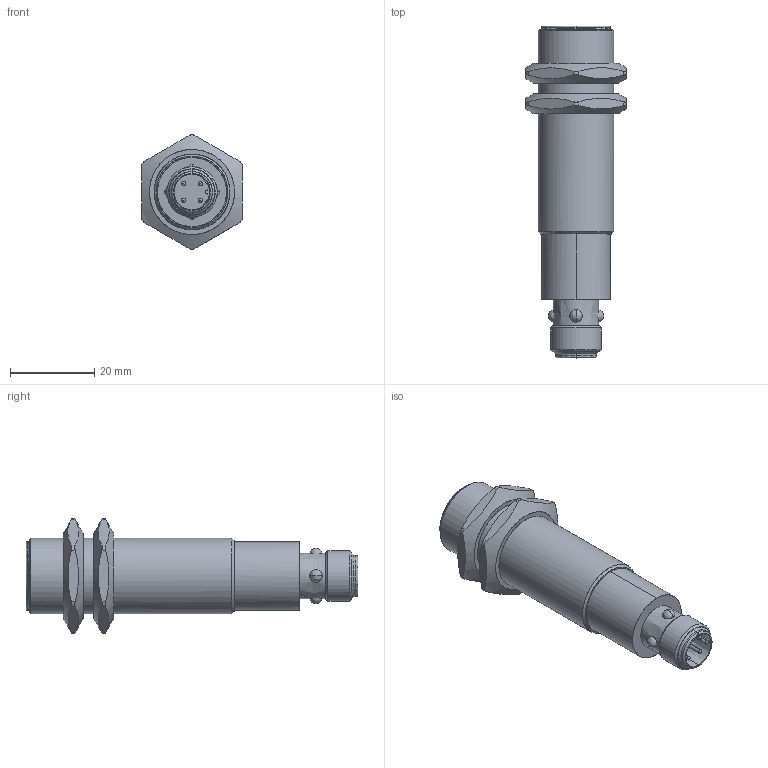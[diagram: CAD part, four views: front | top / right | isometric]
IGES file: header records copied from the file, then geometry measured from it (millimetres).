
Global section: file name: U:\allgemeine_exporte\3DCAD_IS_118MM_4NO_8E0_M12\19-102969_00.0_1-3DCAD_IS_118MM_4NO_8E0_M12.igs; native system: NX V11.0; preprocessor: SIEMENS PLM Software NX 11.0; date: 20190614.102357; units: millimetre
Bounding box: 23.97 x 79 x 27.25 mm (x, y, z)
Surface area: 6902.9 mm2 (no closed solid volume)
Topology: 0 solids, 0 shells, 89 faces, 755 edges, 742 vertices
Faces by surface type: bspline 89
